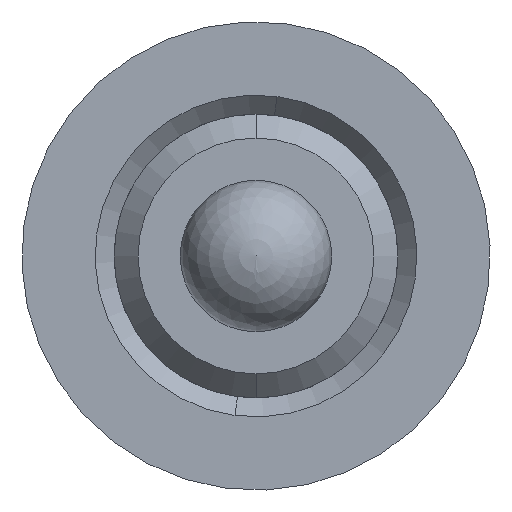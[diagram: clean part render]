
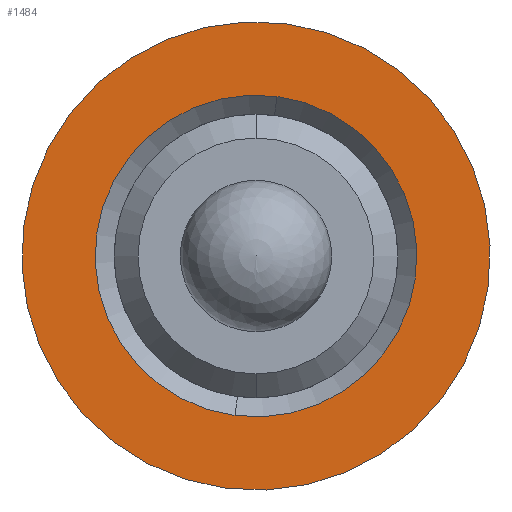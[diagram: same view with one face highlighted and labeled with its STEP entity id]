
A CAD part, left-side view. The second image highlights one B-rep face of the part: STEP entity #1484.
In plain terms, the highlighted planar face has unit normal (-1, 0, 0).
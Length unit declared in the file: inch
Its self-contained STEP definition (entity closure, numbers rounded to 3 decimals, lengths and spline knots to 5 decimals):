
#47 = VERTEX_POINT ( 'NONE', #1324 ) ;
#61 = DIRECTION ( 'NONE',  ( 0., 0.991, 0.13 ) ) ;
#62 = DIRECTION ( 'NONE',  ( 1., 0., 0. ) ) ;
#74 = EDGE_LOOP ( 'NONE', ( #1384, #300 ) ) ;
#98 = PLANE ( 'NONE',  #1089 ) ;
#178 = ORIENTED_EDGE ( 'NONE', *, *, #657, .T. ) ;
#197 = EDGE_LOOP ( 'NONE', ( #178, #314 ) ) ;
#239 = EDGE_CURVE ( 'NONE', #622, #47, #1291, .T. ) ;
#251 = CARTESIAN_POINT ( 'NONE',  ( 0.22557, 0.9455, 1.08873 ) ) ;
#283 = CARTESIAN_POINT ( 'NONE',  ( 0.22557, 0.75228, 1.0633 ) ) ;
#294 = CIRCLE ( 'NONE', #479, 0.06693 ) ;
#300 = ORIENTED_EDGE ( 'NONE', *, *, #1082, .T. ) ;
#314 = ORIENTED_EDGE ( 'NONE', *, *, #881, .T. ) ;
#410 = VERTEX_POINT ( 'NONE', #1235 ) ;
#454 = CIRCLE ( 'NONE', #631, 0.09744 ) ;
#479 = AXIS2_PLACEMENT_3D ( 'NONE', #788, #793, #791 ) ;
#598 = FACE_OUTER_BOUND ( 'NONE', #197, .T. ) ;
#622 = VERTEX_POINT ( 'NONE', #671 ) ;
#631 = AXIS2_PLACEMENT_3D ( 'NONE', #1332, #1252, #1391 ) ;
#657 = EDGE_CURVE ( 'NONE', #1242, #410, #454, .T. ) ;
#671 = CARTESIAN_POINT ( 'NONE',  ( 0.22557, 0.84016, 1.14237 ) ) ;
#751 = AXIS2_PLACEMENT_3D ( 'NONE', #1000, #1163, #1127 ) ;
#788 = CARTESIAN_POINT ( 'NONE',  ( 0.22557, 0.84889, 1.07602 ) ) ;
#791 = DIRECTION ( 'NONE',  ( 0., 0.991, 0.13 ) ) ;
#793 = DIRECTION ( 'NONE',  ( 1., 0., 0. ) ) ;
#794 = AXIS2_PLACEMENT_3D ( 'NONE', #1055, #1054, #1123 ) ;
#881 = EDGE_CURVE ( 'NONE', #410, #1242, #1274, .T. ) ;
#1000 = CARTESIAN_POINT ( 'NONE',  ( 0.22557, 0.84889, 1.07602 ) ) ;
#1054 = DIRECTION ( 'NONE',  ( 1., 0., 0. ) ) ;
#1055 = CARTESIAN_POINT ( 'NONE',  ( 0.22557, 0.84889, 1.07602 ) ) ;
#1082 = EDGE_CURVE ( 'NONE', #47, #622, #294, .T. ) ;
#1089 = AXIS2_PLACEMENT_3D ( 'NONE', #251, #62, #61 ) ;
#1123 = DIRECTION ( 'NONE',  ( 0., 0.991, 0.13 ) ) ;
#1127 = DIRECTION ( 'NONE',  ( 0., -0.991, -0.13 ) ) ;
#1163 = DIRECTION ( 'NONE',  ( -1., 0., 0. ) ) ;
#1235 = CARTESIAN_POINT ( 'NONE',  ( 0.22557, 0.9455, 1.08873 ) ) ;
#1242 = VERTEX_POINT ( 'NONE', #283 ) ;
#1252 = DIRECTION ( 'NONE',  ( -1., 0., 0. ) ) ;
#1274 = CIRCLE ( 'NONE', #751, 0.09744 ) ;
#1291 = CIRCLE ( 'NONE', #794, 0.06693 ) ;
#1324 = CARTESIAN_POINT ( 'NONE',  ( 0.22557, 0.85763, 1.00966 ) ) ;
#1332 = CARTESIAN_POINT ( 'NONE',  ( 0.22557, 0.84889, 1.07602 ) ) ;
#1384 = ORIENTED_EDGE ( 'NONE', *, *, #239, .T. ) ;
#1391 = DIRECTION ( 'NONE',  ( 0., -0.991, -0.13 ) ) ;
#1473 = FACE_BOUND ( 'NONE', #74, .T. ) ;
#1484 = ADVANCED_FACE ( 'NONE', ( #1473, #598 ), #98, .F. ) ;
